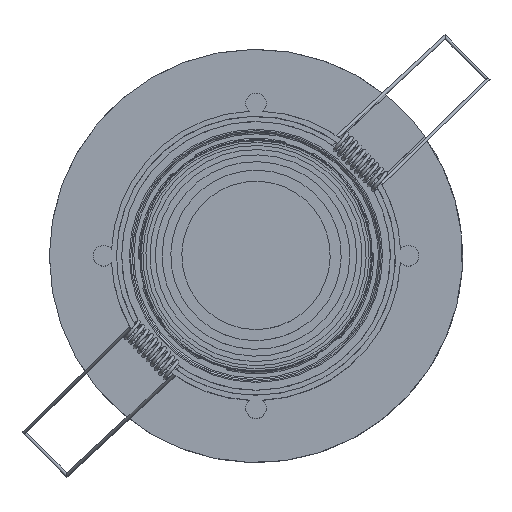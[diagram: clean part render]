
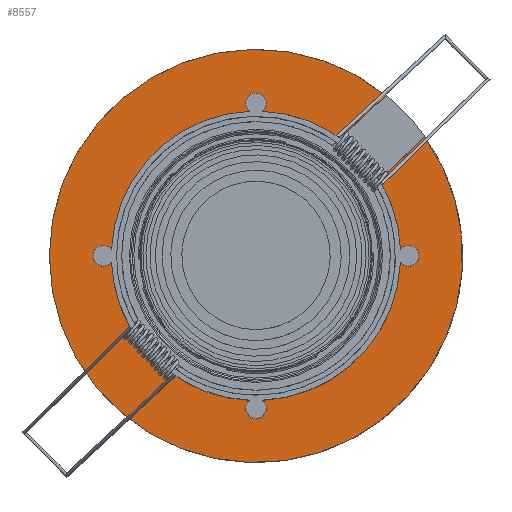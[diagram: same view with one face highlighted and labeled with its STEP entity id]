
A CAD part, top view. The second image highlights one B-rep face of the part: STEP entity #8557.
In plain terms, the highlighted planar face has unit normal (0, 0, 1).
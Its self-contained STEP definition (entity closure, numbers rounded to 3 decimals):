
#882=LINE('',#28989,#1272);
#887=LINE('',#29000,#1277);
#894=LINE('',#29013,#1284);
#908=LINE('',#29049,#1298);
#910=LINE('',#29055,#1300);
#1272=VECTOR('',#12011,10.);
#1277=VECTOR('',#12018,10.);
#1284=VECTOR('',#12027,10.);
#1298=VECTOR('',#12059,10.);
#1300=VECTOR('',#12067,10.);
#1959=CIRCLE('',#9634,28.);
#1961=CIRCLE('',#9636,28.);
#1979=CIRCLE('',#9678,40.);
#1980=CIRCLE('',#9679,40.);
#1981=CIRCLE('',#9681,2.);
#1982=CIRCLE('',#9682,28.);
#1983=CIRCLE('',#9683,2.);
#1984=CIRCLE('',#9684,28.);
#1985=CIRCLE('',#9685,28.);
#1986=CIRCLE('',#9686,2.);
#1987=CIRCLE('',#9687,28.);
#1988=CIRCLE('',#9688,2.);
#2666=FACE_OUTER_BOUND('',#3192,.T.);
#3192=EDGE_LOOP('',(#7805,#7806,#7807,#7808,#7809,#7810,#7811,#7812,#7813,
#7814,#7815,#7816,#7817,#7818,#7819,#7820,#7821));
#4052=VERTEX_POINT('',#28906);
#4053=VERTEX_POINT('',#28908);
#4056=VERTEX_POINT('',#28914);
#4057=VERTEX_POINT('',#28916);
#4077=VERTEX_POINT('',#28987);
#4078=VERTEX_POINT('',#28988);
#4081=VERTEX_POINT('',#28996);
#4083=VERTEX_POINT('',#28999);
#4098=VERTEX_POINT('',#29040);
#4101=VERTEX_POINT('',#29047);
#4106=VERTEX_POINT('',#29064);
#4107=VERTEX_POINT('',#29069);
#4108=VERTEX_POINT('',#29071);
#4109=VERTEX_POINT('',#29073);
#4110=VERTEX_POINT('',#29076);
#4111=VERTEX_POINT('',#29078);
#4112=VERTEX_POINT('',#29080);
#5339=EDGE_CURVE('',#4052,#4053,#1959,.T.);
#5343=EDGE_CURVE('',#4056,#4057,#1961,.T.);
#5379=EDGE_CURVE('',#4077,#4078,#882,.T.);
#5384=EDGE_CURVE('',#4083,#4081,#887,.T.);
#5391=EDGE_CURVE('',#4078,#4053,#894,.T.);
#5410=EDGE_CURVE('',#4098,#4101,#908,.T.);
#5413=EDGE_CURVE('',#4056,#4077,#910,.T.);
#5419=EDGE_CURVE('',#4081,#4106,#1979,.T.);
#5420=EDGE_CURVE('',#4106,#4098,#1980,.T.);
#5421=EDGE_CURVE('',#4052,#4107,#1981,.T.);
#5422=EDGE_CURVE('',#4108,#4107,#1982,.T.);
#5423=EDGE_CURVE('',#4108,#4109,#1983,.T.);
#5424=EDGE_CURVE('',#4083,#4109,#1984,.T.);
#5425=EDGE_CURVE('',#4110,#4101,#1985,.T.);
#5426=EDGE_CURVE('',#4110,#4111,#1986,.T.);
#5427=EDGE_CURVE('',#4112,#4111,#1987,.T.);
#5428=EDGE_CURVE('',#4112,#4057,#1988,.T.);
#7805=ORIENTED_EDGE('',*,*,#5413,.T.);
#7806=ORIENTED_EDGE('',*,*,#5379,.T.);
#7807=ORIENTED_EDGE('',*,*,#5391,.T.);
#7808=ORIENTED_EDGE('',*,*,#5339,.F.);
#7809=ORIENTED_EDGE('',*,*,#5421,.T.);
#7810=ORIENTED_EDGE('',*,*,#5422,.F.);
#7811=ORIENTED_EDGE('',*,*,#5423,.T.);
#7812=ORIENTED_EDGE('',*,*,#5424,.F.);
#7813=ORIENTED_EDGE('',*,*,#5384,.T.);
#7814=ORIENTED_EDGE('',*,*,#5419,.T.);
#7815=ORIENTED_EDGE('',*,*,#5420,.T.);
#7816=ORIENTED_EDGE('',*,*,#5410,.T.);
#7817=ORIENTED_EDGE('',*,*,#5425,.F.);
#7818=ORIENTED_EDGE('',*,*,#5426,.T.);
#7819=ORIENTED_EDGE('',*,*,#5427,.F.);
#7820=ORIENTED_EDGE('',*,*,#5428,.T.);
#7821=ORIENTED_EDGE('',*,*,#5343,.F.);
#8047=PLANE('',#9680);
#8557=ADVANCED_FACE('',(#2666),#8047,.T.);
#9634=AXIS2_PLACEMENT_3D('',#28909,#11928,#11929);
#9636=AXIS2_PLACEMENT_3D('',#28917,#11934,#11935);
#9678=AXIS2_PLACEMENT_3D('',#29066,#12076,#12077);
#9679=AXIS2_PLACEMENT_3D('',#29067,#12078,#12079);
#9680=AXIS2_PLACEMENT_3D('',#29068,#12080,#12081);
#9681=AXIS2_PLACEMENT_3D('',#29070,#12082,#12083);
#9682=AXIS2_PLACEMENT_3D('',#29072,#12084,#12085);
#9683=AXIS2_PLACEMENT_3D('',#29074,#12086,#12087);
#9684=AXIS2_PLACEMENT_3D('',#29075,#12088,#12089);
#9685=AXIS2_PLACEMENT_3D('',#29077,#12090,#12091);
#9686=AXIS2_PLACEMENT_3D('',#29079,#12092,#12093);
#9687=AXIS2_PLACEMENT_3D('',#29081,#12094,#12095);
#9688=AXIS2_PLACEMENT_3D('',#29082,#12096,#12097);
#11928=DIRECTION('center_axis',(0.,0.,1.));
#11929=DIRECTION('ref_axis',(1.,0.,0.));
#11934=DIRECTION('center_axis',(0.,0.,1.));
#11935=DIRECTION('ref_axis',(1.,0.,0.));
#12011=DIRECTION('',(-0.683,0.731,0.));
#12018=DIRECTION('',(0.731,0.683,0.));
#12027=DIRECTION('',(0.731,0.683,0.));
#12059=DIRECTION('',(-0.731,-0.683,0.));
#12067=DIRECTION('',(-0.731,-0.683,0.));
#12076=DIRECTION('center_axis',(0.,0.,1.));
#12077=DIRECTION('ref_axis',(1.,0.,0.));
#12078=DIRECTION('center_axis',(0.,0.,1.));
#12079=DIRECTION('ref_axis',(1.,0.,0.));
#12080=DIRECTION('center_axis',(0.,0.,1.));
#12081=DIRECTION('ref_axis',(1.,0.,0.));
#12082=DIRECTION('center_axis',(0.,0.,-1.));
#12083=DIRECTION('ref_axis',(0.765,0.644,0.));
#12084=DIRECTION('center_axis',(0.,0.,1.));
#12085=DIRECTION('ref_axis',(1.,0.,0.));
#12086=DIRECTION('center_axis',(0.,0.,-1.));
#12087=DIRECTION('ref_axis',(0.644,-0.765,0.));
#12088=DIRECTION('center_axis',(0.,0.,1.));
#12089=DIRECTION('ref_axis',(1.,0.,0.));
#12090=DIRECTION('center_axis',(0.,0.,1.));
#12091=DIRECTION('ref_axis',(1.,0.,0.));
#12092=DIRECTION('center_axis',(0.,0.,-1.));
#12093=DIRECTION('ref_axis',(-0.765,-0.644,0.));
#12094=DIRECTION('center_axis',(0.,0.,1.));
#12095=DIRECTION('ref_axis',(1.,0.,0.));
#12096=DIRECTION('center_axis',(0.,0.,-1.));
#12097=DIRECTION('ref_axis',(-0.644,0.765,0.));
#28906=CARTESIAN_POINT('',(-1027.676,-1.288,73.55));
#28908=CARTESIAN_POINT('',(-1023.519,-14.728,73.55));
#28909=CARTESIAN_POINT('Origin',(-999.706,0.,
73.55));
#28914=CARTESIAN_POINT('',(-1016.008,-22.765,73.55));
#28916=CARTESIAN_POINT('',(-1000.995,-27.97,73.55));
#28917=CARTESIAN_POINT('Origin',(-999.706,0.,
73.55));
#28987=CARTESIAN_POINT('',(-1016.407,-23.137,73.55));
#28988=CARTESIAN_POINT('',(-1023.918,-15.101,73.55));
#28989=CARTESIAN_POINT('',(-1020.333,-18.936,73.55));
#28996=CARTESIAN_POINT('',(-974.516,31.072,73.55));
#28999=CARTESIAN_POINT('',(-983.404,22.765,73.55));
#29000=CARTESIAN_POINT('',(-1013.69,-5.541,73.55));
#29013=CARTESIAN_POINT('',(-1013.69,-5.541,73.55));
#29040=CARTESIAN_POINT('',(-967.005,23.035,73.55));
#29047=CARTESIAN_POINT('',(-975.893,14.728,73.55));
#29049=CARTESIAN_POINT('',(-1006.179,-13.578,73.55));
#29055=CARTESIAN_POINT('',(-1006.179,-13.578,73.55));
#29064=CARTESIAN_POINT('',(-1039.706,0.,73.55));
#29066=CARTESIAN_POINT('Origin',(-999.706,0.,
73.55));
#29067=CARTESIAN_POINT('Origin',(-999.706,0.,
73.55));
#29068=CARTESIAN_POINT('Origin',(-999.706,0.,
73.55));
#29069=CARTESIAN_POINT('',(-1027.676,1.288,73.55));
#29070=CARTESIAN_POINT('Origin',(-1029.206,0.,
73.55));
#29071=CARTESIAN_POINT('',(-1000.995,27.97,73.55));
#29072=CARTESIAN_POINT('Origin',(-999.706,0.,
73.55));
#29073=CARTESIAN_POINT('',(-998.418,27.97,73.55));
#29074=CARTESIAN_POINT('Origin',(-999.706,29.5,73.55));
#29075=CARTESIAN_POINT('Origin',(-999.706,0.,
73.55));
#29076=CARTESIAN_POINT('',(-971.736,1.288,73.55));
#29077=CARTESIAN_POINT('Origin',(-999.706,0.,
73.55));
#29078=CARTESIAN_POINT('',(-971.736,-1.288,73.55));
#29079=CARTESIAN_POINT('Origin',(-970.206,0.,
73.55));
#29080=CARTESIAN_POINT('',(-998.418,-27.97,73.55));
#29081=CARTESIAN_POINT('Origin',(-999.706,0.,
73.55));
#29082=CARTESIAN_POINT('Origin',(-999.706,-29.5,73.55));
